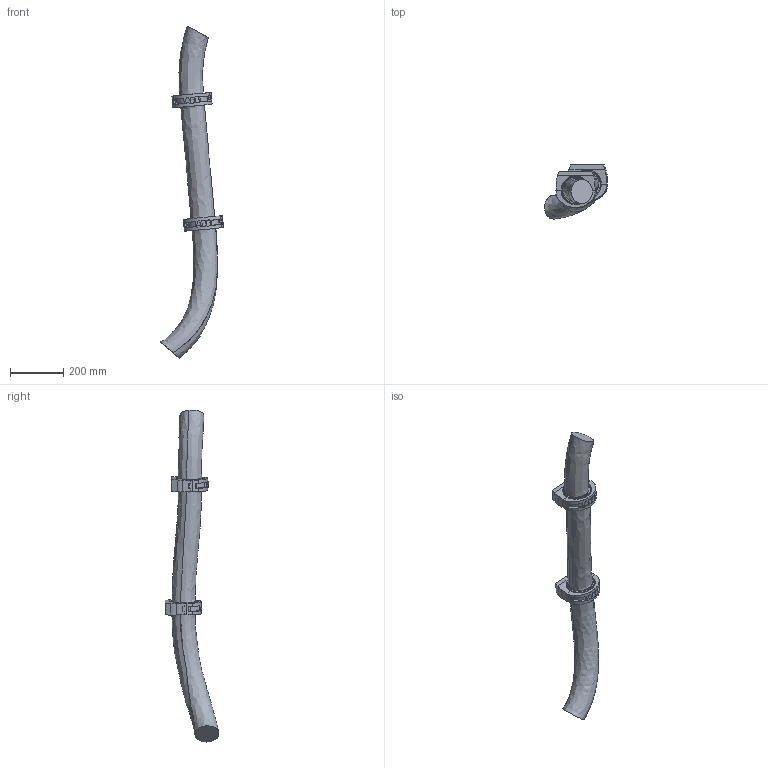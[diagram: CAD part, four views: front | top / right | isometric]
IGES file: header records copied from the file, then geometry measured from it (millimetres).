
Start section: SolidWorks IGES file using analytic representation for surfaces
Global section: file name: C:\Data\SAP_DOC\IRB6740_lightweight\6750S\IRB 6750S ASM\IRB6750S-LID-SW_185kg-390_OC_01_SW_J\IRB6750S-LID-SW_185kg-390_OC_01_IGES_J\IRB6750S-ALL-OC_00_LINK02_CABLE.igs; native system: SolidWorks 2024; preprocessor: SolidWorks 2024; author: SEJAOLS6; date: 260513.073941; units: millimetre
Bounding box: 236.81 x 202.84 x 1250.51 mm (x, y, z)
Surface area: 445648.5 mm2 (no closed solid volume)
Topology: 0 solids, 0 shells, 248 faces, 4235 edges, 4235 vertices
Faces by surface type: bspline 156, revolution 92
